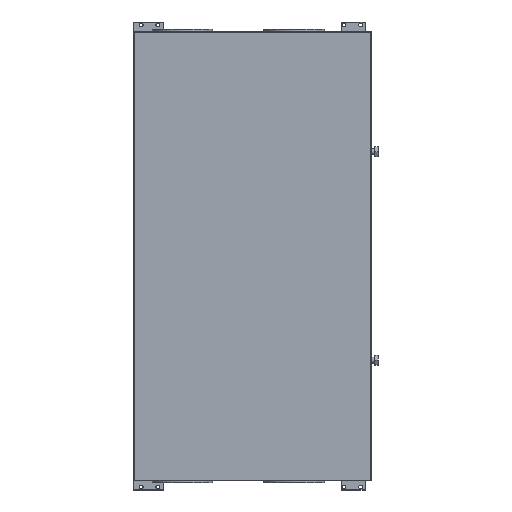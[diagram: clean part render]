
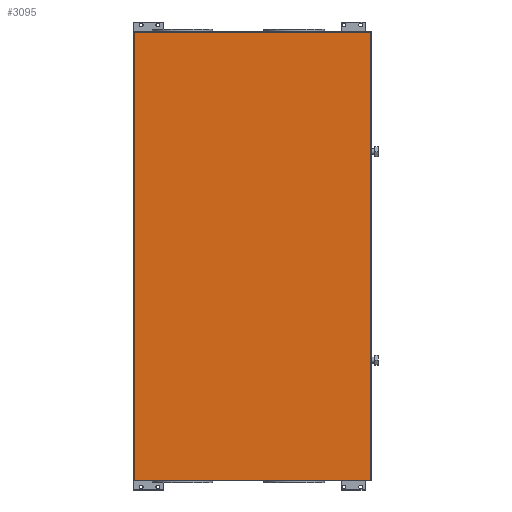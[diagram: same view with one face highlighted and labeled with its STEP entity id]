
A CAD part, top view. The second image highlights one B-rep face of the part: STEP entity #3095.
In plain terms, the highlighted planar face has unit normal (0, 0, 1).
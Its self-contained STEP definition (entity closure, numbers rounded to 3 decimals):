
#191=LINE('',#4952,#476);
#200=LINE('',#4988,#485);
#202=LINE('',#4998,#487);
#203=LINE('',#5003,#488);
#476=VECTOR('',#3862,10.);
#485=VECTOR('',#3905,10.);
#487=VECTOR('',#3921,10.);
#488=VECTOR('',#3930,10.);
#912=FACE_OUTER_BOUND('',#1137,.T.);
#1137=EDGE_LOOP('',(#2803,#2804,#2805,#2806));
#1410=VERTEX_POINT('',#4949);
#1411=VERTEX_POINT('',#4951);
#1419=VERTEX_POINT('',#4978);
#1422=VERTEX_POINT('',#4991);
#1743=EDGE_CURVE('',#1411,#1410,#191,.T.);
#1763=EDGE_CURVE('',#1411,#1419,#200,.T.);
#1769=EDGE_CURVE('',#1419,#1422,#202,.T.);
#1772=EDGE_CURVE('',#1422,#1410,#203,.T.);
#2803=ORIENTED_EDGE('',*,*,#1763,.F.);
#2804=ORIENTED_EDGE('',*,*,#1743,.T.);
#2805=ORIENTED_EDGE('',*,*,#1772,.F.);
#2806=ORIENTED_EDGE('',*,*,#1769,.F.);
#2909=PLANE('',#3435);
#3095=ADVANCED_FACE('',(#912),#2909,.T.);
#3435=AXIS2_PLACEMENT_3D('',#5389,#4361,#4362);
#3862=DIRECTION('',(1.,0.,0.));
#3905=DIRECTION('',(0.,1.,0.));
#3921=DIRECTION('',(1.,0.,0.));
#3930=DIRECTION('',(0.,-1.,0.));
#4361=DIRECTION('center_axis',(0.,0.,1.));
#4362=DIRECTION('ref_axis',(1.,0.,0.));
#4949=CARTESIAN_POINT('',(312.,-592.5,147.5));
#4951=CARTESIAN_POINT('',(-312.,-592.5,147.5));
#4952=CARTESIAN_POINT('',(314.,-592.5,147.5));
#4978=CARTESIAN_POINT('',(-312.,590.5,147.5));
#4988=CARTESIAN_POINT('',(-312.,296.25,147.5));
#4991=CARTESIAN_POINT('',(312.,590.5,147.5));
#4998=CARTESIAN_POINT('',(157.,590.5,147.5));
#5003=CARTESIAN_POINT('',(312.,-296.25,147.5));
#5389=CARTESIAN_POINT('Origin',(0.,0.,
147.5));
